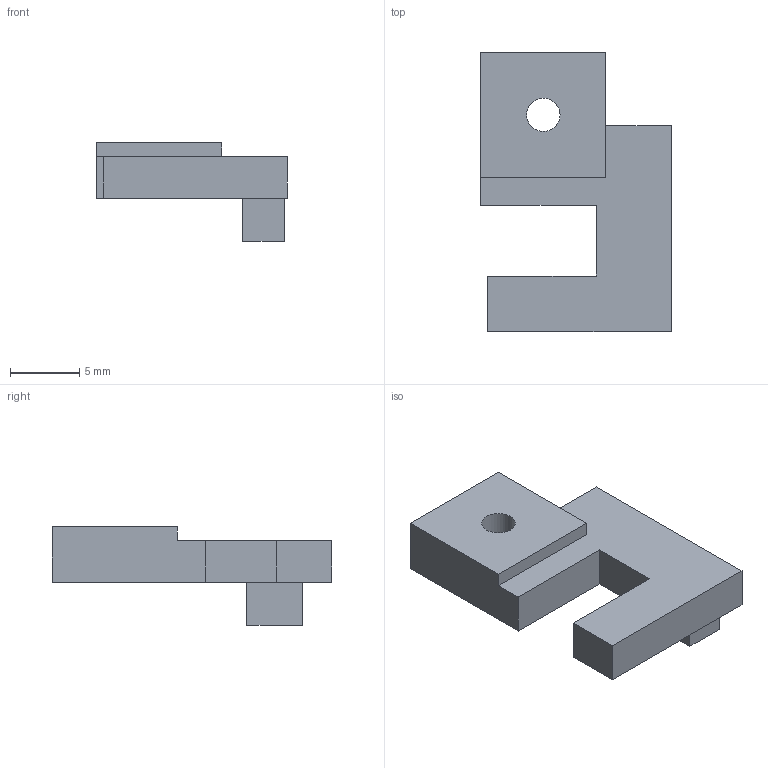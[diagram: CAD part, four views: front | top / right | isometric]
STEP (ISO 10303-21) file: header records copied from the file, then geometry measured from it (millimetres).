
FILE_DESCRIPTION(('Open CASCADE Model'),'2;1');
FILE_NAME('P08-P08_distal_lid.step', '', ('Noah Wilson'), (''), '', '', '');
FILE_SCHEMA(('AUTOMOTIVE_DESIGN { 1 0 10303 214 1 1 1 1 }'));
Length unit declared in the file: millimetre
Products named in the file (1): COMPOUND
Bounding box: 13.7 x 20.1 x 7.1 mm (x, y, z)
Volume: 718.5 mm3; surface area: 762.4 mm2
Topology: 1 solids, 1 shells, 20 faces, 51 edges, 34 vertices
Faces by surface type: plane 19, cylinder 1
Full cylindrical faces by diameter (mm): 2.4 x1
Entity records: 1254 total; most frequent: CARTESIAN_POINT 228, DIRECTION 177, LINE 129, VECTOR 129, ORIENTED_EDGE 102, PCURVE 102, DEFINITIONAL_REPRESENTATION 102, EDGE_CURVE 51
